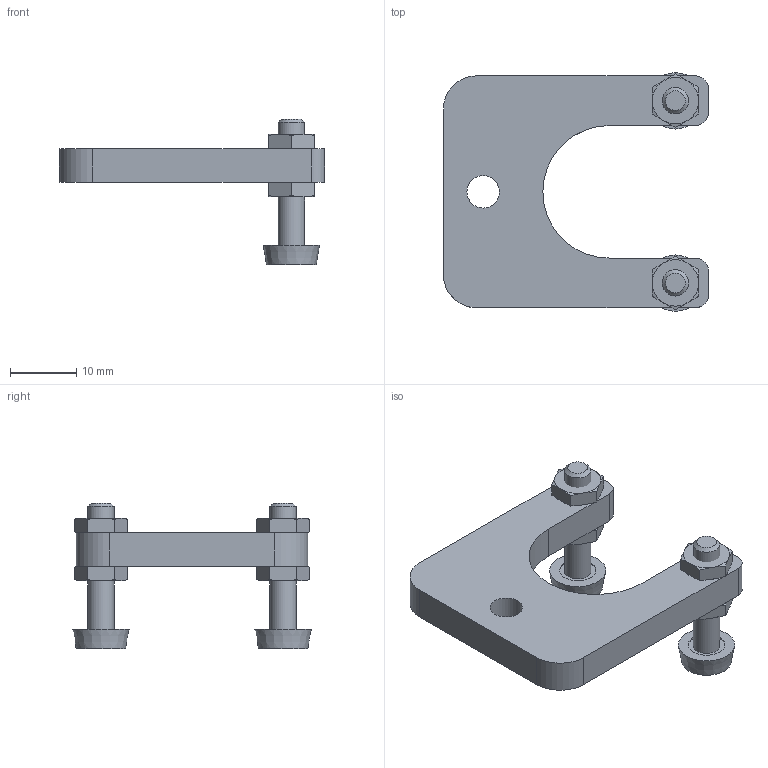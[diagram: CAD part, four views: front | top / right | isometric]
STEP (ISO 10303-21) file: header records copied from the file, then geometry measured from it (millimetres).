
FILE_DESCRIPTION(/* description */ (''),/* implementation_level */ '2;1');
FILE_NAME(/* name */ 'C:\Local Work Area\Progetti\AP\CALIBRI\90.XX PRESSINI\94.00.stp',/* time_stamp */ '2016-05-05T15:42:52+02:00',/* author */ ('CAD2'),/* organization */ (''),/* preprocessor_version */ 'ST-DEVELOPER v15.2',/* originating_system */ 'Autodesk Inventor 2014',/* authorisation */ '0 mm^3');
FILE_SCHEMA (('CONFIG_CONTROL_DESIGN'));
Length unit declared in the file: millimetre
Products named in the file (8): 94.01; 92.02; 92.01; 92.03; 205208_M_002; 92.00; 92.00_1; 94.00
Bounding box: 40 x 36 x 22 mm (x, y, z)
Volume: 5532.6 mm3; surface area: 4435.9 mm2
Topology: 9 solids, 9 shells, 125 faces, 266 edges, 163 vertices
Faces by surface type: plane 53, cone 52, cylinder 20
Full cylindrical faces by diameter (mm): 3.242 x6, 3.978 x2, 4.917 x1, 5.5 x4
Entity records: 1550 total; most frequent: CARTESIAN_POINT 288, DIRECTION 260, ORIENTED_EDGE 202, AXIS2_PLACEMENT_3D 113, EDGE_CURVE 101, EDGE_LOOP 70, VERTEX_POINT 69, ADVANCED_FACE 51
